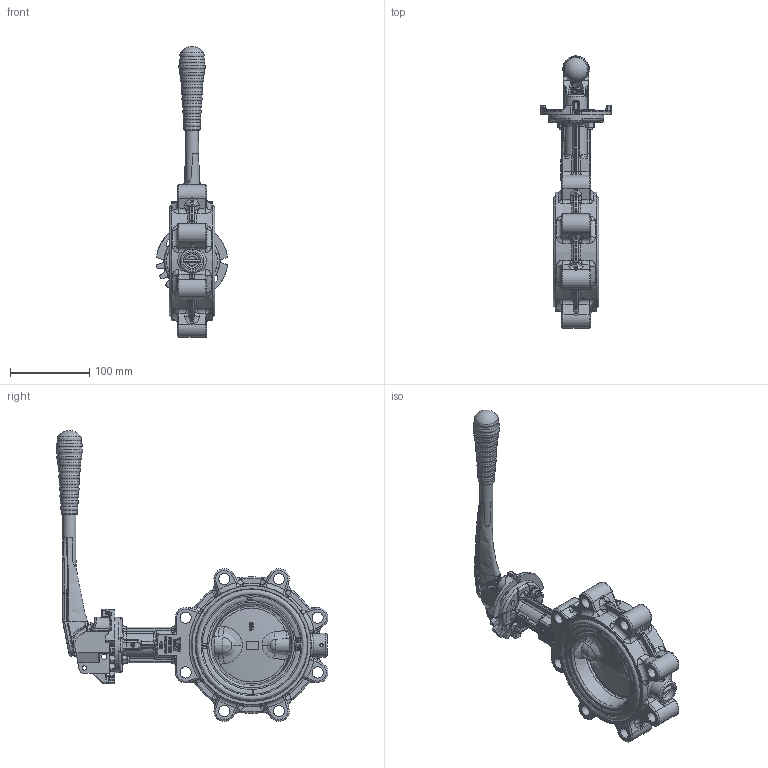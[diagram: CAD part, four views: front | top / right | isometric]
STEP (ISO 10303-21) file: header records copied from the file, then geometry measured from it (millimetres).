
FILE_DESCRIPTION((''),'2;1');
FILE_NAME('K:\Inventor\1 Artikel\10) Absperrklappen\10a) manuell\ABO Valve\894-GGG, 994T\894-GGG, DN100\894-GGG, DN100, 3D\894-GGG, DN100, PN10-16, HH, 3D.stp','2019-08-13T11:36:48',('claudia'),(''),'Autodesk Inventor 2013','Autodesk Inventor 2013','');
FILE_SCHEMA(('AUTOMOTIVE_DESIGN { 1 0 10303 214 1 1 1 1 }'));
Length unit declared in the file: millimetre
Products named in the file (1): Bauteil11
Bounding box: 89.17 x 342.39 x 366.32 mm (x, y, z)
Surface area: 215969.5 mm2
Topology: 11 solids, 12 shells, 2462 faces, 6445 edges, 4016 vertices
Faces by surface type: plane 840, bspline 827, cylinder 447, torus 221, cone 93, sphere 30, revolution 4
Full cylindrical faces by diameter (mm): 3.85 x1, 4 x2, 4.2 x1, 5 x1, 5.5 x2, 6 x4, 6.3 x2, 6.4 x2, 6.5 x2, 7 x4, 8.9 x2, 9.5 x1, 11.3 x2, 12 x5, 12.5 x1, 14 x8, 16 x2, 16.05 x1, 16.5 x2, 19.8 x1, 20 x2, 20.5 x1, 22 x2, 22.5 x1, 25 x1, 30 x1, 36 x1, 70 x1, 136.379 x1, 140 x2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
Entity records: 113767 total; most frequent: CARTESIAN_POINT 60115, ORIENTED_EDGE 12270, DIRECTION 8703, EDGE_CURVE 6137, VERTEX_POINT 3943, AXIS2_PLACEMENT_3D 3131, EDGE_LOOP 2752, FACE_OUTER_BOUND 2457
